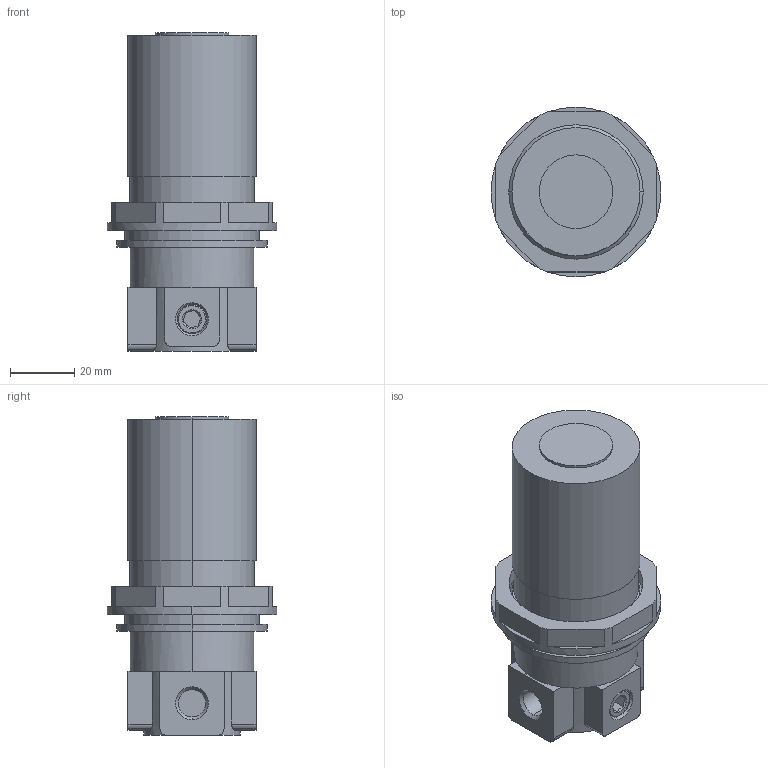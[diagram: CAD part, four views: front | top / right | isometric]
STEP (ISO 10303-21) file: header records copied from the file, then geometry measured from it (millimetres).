
FILE_DESCRIPTION((''),'2;1');
FILE_NAME('I:\DOC-EDP\Lib-3d\FRL\17129A_.stp','2003-06-16T14:53:11',('maffial1'),(''),'Autodesk Inventor 7','Autodesk Inventor 7','');
FILE_SCHEMA(('AUTOMOTIVE_DESIGN { 1 0 10303 214 1 1 1 1 }'));
Length unit declared in the file: millimetre
Products named in the file (4): 17129A_; 17129A_(1); RK_1701_020; RS_1702_12
Assembly tree (3 placements, depth 2):
  17129A_
    17129A_(1)
    RK_1701_020
    RS_1702_12
Bounding box: 53 x 53 x 99.5 mm (x, y, z)
Volume: 126343.9 mm3; surface area: 22925 mm2
Topology: 3 solids, 3 shells, 148 faces, 362 edges, 229 vertices
Faces by surface type: plane 66, cylinder 44, bspline 22, cone 12, torus 4
Entity records: 4799 total; most frequent: CARTESIAN_POINT 1248, DIRECTION 739, ORIENTED_EDGE 716, EDGE_CURVE 358, AXIS2_PLACEMENT_3D 276, VERTEX_POINT 229, VECTOR 187, LINE 187
